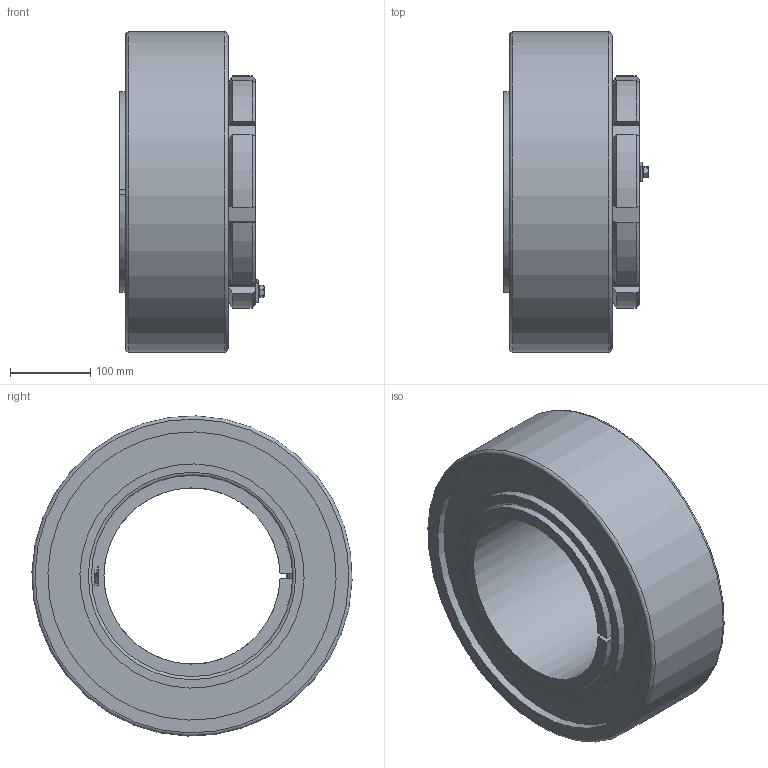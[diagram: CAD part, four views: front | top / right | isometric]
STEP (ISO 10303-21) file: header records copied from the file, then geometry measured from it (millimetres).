
FILE_DESCRIPTION( ( 'STEP AP203' ), ' ' );
FILE_NAME( 'p:/temp/worker_321/3412_4532/app_90_02016102820071151105728192d056f_000000_00_00_000000/format_0/BGL H 3148 TL+C3148K.stp', '2016-10-28T18:07:14', ( '' ), ( '' ), ' ', 'PARTsolutions', ' ' );
FILE_SCHEMA( ( 'CONFIG_CONTROL_DESIGN' ) );
Length unit declared in the file: millimetre
Products named in the file (6): BGL H 3148 TL+C3148K; _BGLH3148TLB; _BGL HM 3048; _BGLH3148TL+H-C3148K; _BGL MS 3048-BGL MS 3052part; _BGL MS 3048-BGL MS 3052HHS
Assembly tree (5 placements, depth 2):
  BGL H 3148 TL+C3148K
    _BGLH3148TLB
    _BGL HM 3048
    _BGLH3148TL+H-C3148K
    _BGL MS 3048-BGL MS 3052part
    _BGL MS 3048-BGL MS 3052HHS
Bounding box: 180.05 x 399.86 x 399.86 mm (x, y, z)
Volume: 11286676.6 mm3; surface area: 820369.8 mm2
Topology: 5 solids, 5 shells, 351 faces, 899 edges, 589 vertices
Faces by surface type: plane 230, cylinder 79, cone 38, torus 4
Full cylindrical faces by diameter (mm): 8 x9, 9 x1, 14.8 x1, 236 x1, 280 x2, 360 x2, 400 x1
Entity records: 10762 total; most frequent: CARTESIAN_POINT 2104, DIRECTION 1729, ORIENTED_EDGE 1726, EDGE_CURVE 863, VERTEX_POINT 586, AXIS2_PLACEMENT_3D 577, LINE 575, VECTOR 575
